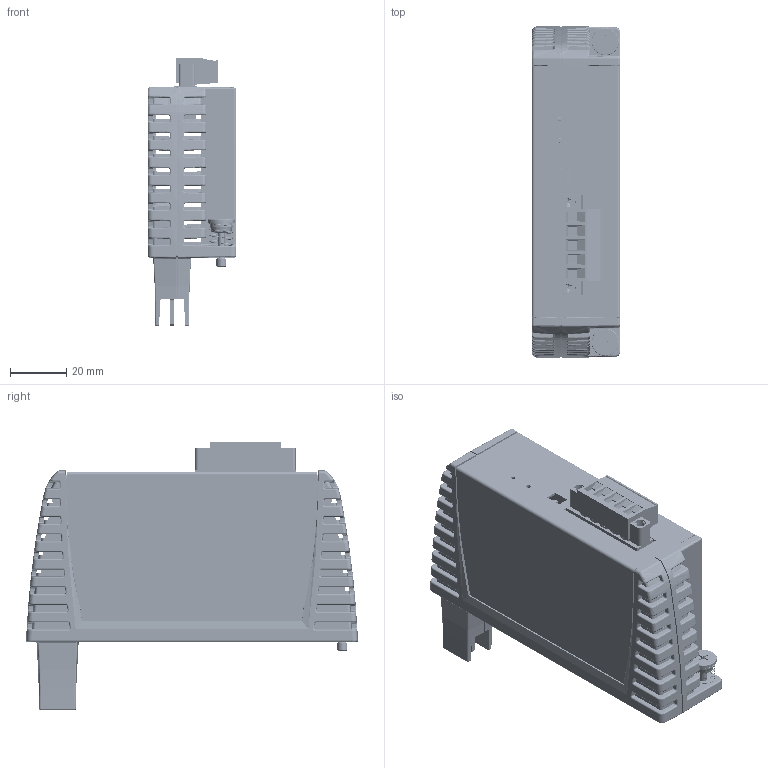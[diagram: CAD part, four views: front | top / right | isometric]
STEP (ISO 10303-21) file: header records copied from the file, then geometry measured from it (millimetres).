
FILE_DESCRIPTION (( 'STEP AP214' ), '1' );
FILE_NAME ('GMCAN.STEP', '2014-08-15T17:48:35', ( 'Network Administration' ), ( 'Red Lion Controls Inc.' ), 'SwSTEP 2.0', 'SolidWorks 2014', '' );
FILE_SCHEMA (( 'AUTOMOTIVE_DESIGN' ));
Length unit declared in the file: millimetre
Products named in the file (12): MSTB_2.5-HC-5-STF-5.08; 92010A112_92010A112; PEM F-632-1; M4904C_CN_DN_2014-06-12; PEM SCBR-632-8 ZI; McMC 91771A143_91771A143; McMC 90692A086; McMC 90402A106_90402A106; CV514900_MODULE SHEET METAL WRAP_CV115090 CAN MODULE WRAP; CA503100_MODULE CASE, RIGHT HALF; CA503000_MODULE CASE, LEFT HALF; GMCAN
Assembly tree (17 placements, depth 2):
  GMCAN
    CA503000_MODULE CASE, LEFT HALF
    CA503100_MODULE CASE, RIGHT HALF
    CV514900_MODULE SHEET METAL WRAP_CV115090 CAN MODULE WRAP
    McMC 90402A106_90402A106  x2
    McMC 90692A086  x4
    McMC 91771A143_91771A143
    PEM SCBR-632-8 ZI  x2
    M4904C_CN_DN_2014-06-12
    PEM F-632-1  x2
    92010A112_92010A112
    MSTB_2.5-HC-5-STF-5.08
Bounding box: 31.5 x 117.84 x 95.19 mm (x, y, z)
Volume: 42185.8 mm3; surface area: 76041.5 mm2
Topology: 17 solids, 63 shells, 5177 faces, 13708 edges, 8471 vertices
Faces by surface type: plane 1596, bspline 1423, cylinder 1332, torus 394, cone 326, sphere 106
Entity records: 194389 total; most frequent: CARTESIAN_POINT 74489, ORIENTED_EDGE 24878, DIRECTION 19783, EDGE_CURVE 12880, VERTEX_POINT 8002, AXIS2_PLACEMENT_3D 7253, VECTOR 5277, LINE 5277
